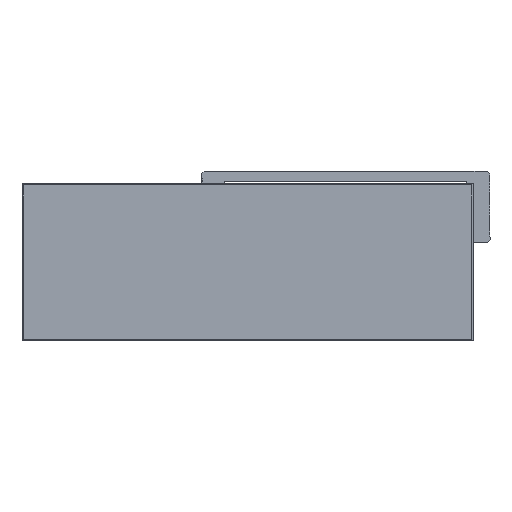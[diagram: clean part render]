
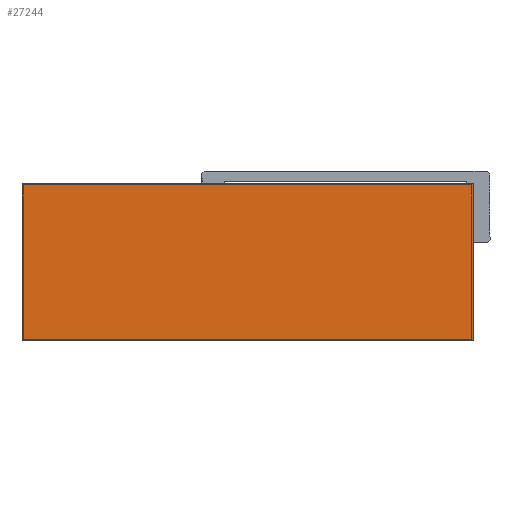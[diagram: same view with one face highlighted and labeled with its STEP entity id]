
A CAD part, top view. The second image highlights one B-rep face of the part: STEP entity #27244.
In plain terms, the highlighted planar face has unit normal (0, 0, 1).
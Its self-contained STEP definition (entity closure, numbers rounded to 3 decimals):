
#252 = VECTOR ( 'NONE', #28050, 1000. ) ;
#686 = LINE ( 'NONE', #28192, #252 ) ;
#3488 = CARTESIAN_POINT ( 'NONE',  ( 0., 0., 70. ) ) ;
#5288 = CARTESIAN_POINT ( 'NONE',  ( 313., 109., 70. ) ) ;
#5440 = EDGE_CURVE ( 'NONE', #13985, #14231, #13650, .T. ) ;
#6181 = VERTEX_POINT ( 'NONE', #5288 ) ;
#6564 = EDGE_CURVE ( 'NONE', #14231, #6181, #686, .T. ) ;
#7563 = DIRECTION ( 'NONE',  ( 0., 0., -1. ) ) ;
#8087 = EDGE_CURVE ( 'NONE', #11932, #13985, #21650, .T. ) ;
#11932 = VERTEX_POINT ( 'NONE', #27758 ) ;
#13067 = VECTOR ( 'NONE', #33912, 1000. ) ;
#13593 = VECTOR ( 'NONE', #18805, 1000. ) ;
#13650 = LINE ( 'NONE', #19044, #13593 ) ;
#13985 = VERTEX_POINT ( 'NONE', #3488 ) ;
#14231 = VERTEX_POINT ( 'NONE', #30698 ) ;
#16691 = CARTESIAN_POINT ( 'NONE',  ( 0., 0., 70. ) ) ;
#16839 = DIRECTION ( 'NONE',  ( 0., -1., 0. ) ) ;
#17949 = CARTESIAN_POINT ( 'NONE',  ( 0., 0., 70. ) ) ;
#18158 = AXIS2_PLACEMENT_3D ( 'NONE', #17949, #7563, #25971 ) ;
#18805 = DIRECTION ( 'NONE',  ( 1., 0., 0. ) ) ;
#19044 = CARTESIAN_POINT ( 'NONE',  ( 0., 0., 70. ) ) ;
#21409 = VECTOR ( 'NONE', #16839, 1000. ) ;
#21650 = LINE ( 'NONE', #16691, #21409 ) ;
#22292 = FACE_OUTER_BOUND ( 'NONE', #33340, .T. ) ;
#23042 = ORIENTED_EDGE ( 'NONE', *, *, #6564, .T. ) ;
#25630 = ORIENTED_EDGE ( 'NONE', *, *, #5440, .T. ) ;
#25971 = DIRECTION ( 'NONE',  ( -1., 0., 0. ) ) ;
#26912 = ORIENTED_EDGE ( 'NONE', *, *, #8087, .T. ) ;
#27244 = ADVANCED_FACE ( 'NONE', ( #22292 ), #33824, .F. ) ;
#27758 = CARTESIAN_POINT ( 'NONE',  ( 0., 109., 70. ) ) ;
#28050 = DIRECTION ( 'NONE',  ( 0., 1., 0. ) ) ;
#28192 = CARTESIAN_POINT ( 'NONE',  ( 313., 0., 70. ) ) ;
#28692 = CARTESIAN_POINT ( 'NONE',  ( 0., 109., 70. ) ) ;
#29581 = EDGE_CURVE ( 'NONE', #6181, #11932, #34034, .T. ) ;
#30698 = CARTESIAN_POINT ( 'NONE',  ( 313., 0., 70. ) ) ;
#31564 = ORIENTED_EDGE ( 'NONE', *, *, #29581, .T. ) ;
#33340 = EDGE_LOOP ( 'NONE', ( #26912, #25630, #23042, #31564 ) ) ;
#33824 = PLANE ( 'NONE',  #18158 ) ;
#33912 = DIRECTION ( 'NONE',  ( -1., 0., 0. ) ) ;
#34034 = LINE ( 'NONE', #28692, #13067 ) ;
